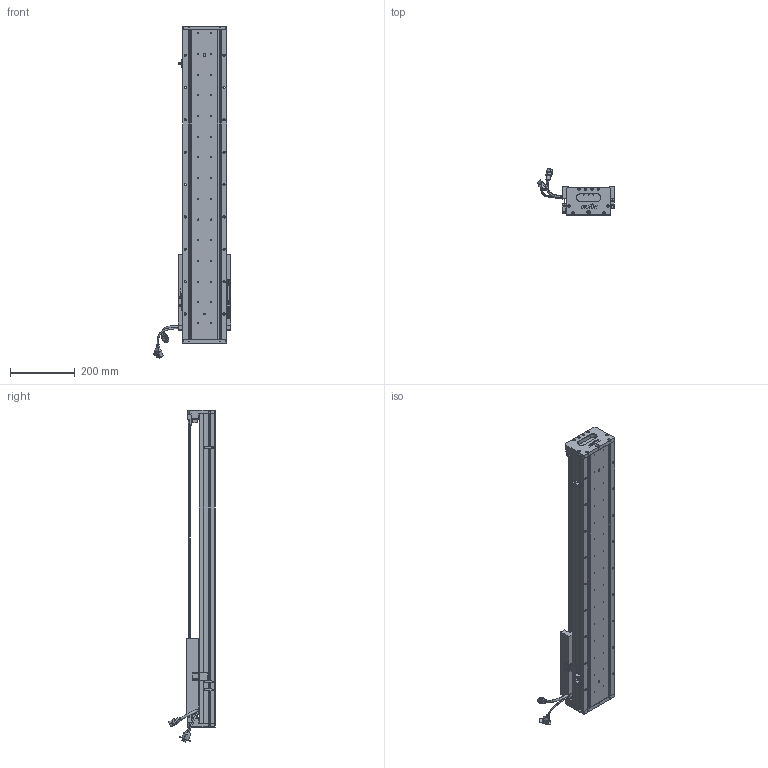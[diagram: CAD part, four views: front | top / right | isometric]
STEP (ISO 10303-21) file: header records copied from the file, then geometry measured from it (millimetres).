
FILE_DESCRIPTION (( 'STEP AP203' ), '1' );
FILE_NAME ('Z3-RY140D-1-L500-B-K.SLDASM_0650.step', '2021-05-17T08:00:31', ( '盈信电脑' ), ( '东莞市道滘镇水果街19号' ), 'SwSTEP 2.0', 'SolidWorks 2016', '' );
FILE_SCHEMA (( 'CONFIG_CONTROL_DESIGN' ));
Length unit declared in the file: millimetre
Products named in the file (36): SCREW-M1.7-1; 080黍杅芛假蚾釱21遴; SCALE-Part-1; 140蚥薯蝶輸; PSLH080_PSLF2; 140-Z-臏賑輸盄裔(21遴); HARNESS-Part-2; LABEL-Part-1; LABEL; HOLDER0; 覜茼ん672; SEAL; Z3-RY140D-1-L500-B-K.SLDASM_0650; HARNESS; Z3-RY140-L500直线电机模组底座_0650; 榋妏寠巭燃_暯_M2_2; Z3-RY140-L500詩湍100mm遵_0650; 140雄赽晤鎢ん堤盄; Z-RY140詩湍狟揤裔; SCREW-M1.6-3; SEAL-Part-1; SCALE-Part-2; Z3-RY140圉猾敕臏賑輸(21遴); SCREW-M1.6-2; COVER; SCREW-M1.6-1; COVER-Part-1; Z-140詩湍傷裔啣; PBU_SHEET; SCREW-M1.6; HARNESS-Part-1; Z-RY140詩湍奻揤裔; SCREW-M1.7; SCALE; SHIELDPLATE; Z-RY140感应器672光电感应片
Assembly tree (41 placements, depth 4):
  Z3-RY140D-1-L500-B-K.SLDASM_0650
    Z3-RY140-L500直线电机模组底座_0650
    Z-RY140感应器672光电感应片
    Z3-RY140圉猾敕臏賑輸(21遴)
    覜茼ん672  x3
    Z3-RY140-L500詩湍100mm遵_0650
    PSLH080_PSLF2
      SCALE
        SCALE-Part-1
        SCALE-Part-2
      HARNESS
        HARNESS-Part-1
        HARNESS-Part-2
      LABEL
        LABEL-Part-1
      COVER
        COVER-Part-1
      SEAL
        SEAL-Part-1
      榋妏寠巭燃_暯_M2_2
      SHIELDPLATE
      SCREW-M1.7
      SCREW-M1.7-1
      PBU_SHEET
      SCREW-M1.6
      SCREW-M1.6-1
      SCREW-M1.6-2
      SCREW-M1.6-3
      HOLDER0
    080黍杅芛假蚾釱21遴
    140-Z-臏賑輸盄裔(21遴)
    Z-140詩湍傷裔啣  x2
    Z-RY140詩湍狟揤裔  x2
    Z-RY140詩湍奻揤裔  x2
    140蚥薯蝶輸  x2
    140雄赽晤鎢ん堤盄
Bounding box: 239.84 x 143.88 x 1025.88 mm (x, y, z)
Volume: 3906873.1 mm3; surface area: 1004544.3 mm2
Topology: 36 solids, 36 shells, 2904 faces, 7636 edges, 4831 vertices
Faces by surface type: cylinder 1358, plane 1130, cone 294, torus 69, bspline 53
Entity records: 84552 total; most frequent: CARTESIAN_POINT 21095, ORIENTED_EDGE 12408, DIRECTION 12364, EDGE_CURVE 6204, AXIS2_PLACEMENT_3D 4548, VERTEX_POINT 3999, LINE 3268, VECTOR 3268
